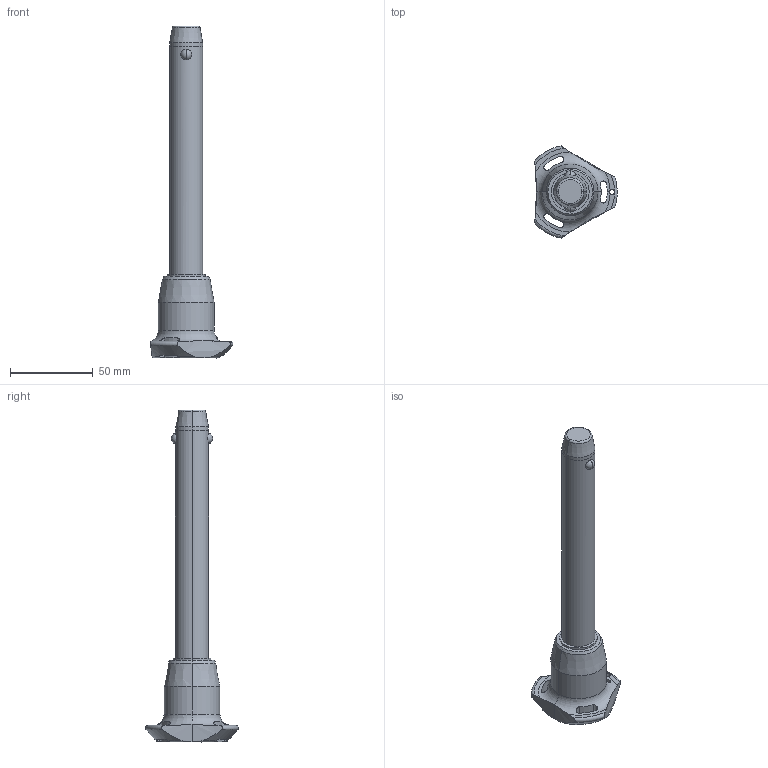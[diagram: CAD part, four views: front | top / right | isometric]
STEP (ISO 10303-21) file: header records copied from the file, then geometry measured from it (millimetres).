
FILE_DESCRIPTION (( 'STEP AP203' ), '1' );
FILE_NAME ('QR1726.M20-130-T.step', '2025-11-13T11:26:28', ( '' ), ( '' ), 'SwSTEP 2.0', 'SolidWorks 2019', '' );
FILE_SCHEMA (( 'CONFIG_CONTROL_DESIGN' ));
Length unit declared in the file: millimetre
Products named in the file (1): QR1726.M20-130-T
Bounding box: 50.05 x 56.02 x 201.2 mm (x, y, z)
Volume: 94616.4 mm3; surface area: 19135.8 mm2
Topology: 1 solids, 1 shells, 68 faces, 182 edges, 115 vertices
Faces by surface type: cylinder 32, cone 14, torus 11, sphere 6, plane 5
Entity records: 2938 total; most frequent: CARTESIAN_POINT 1192, ORIENTED_EDGE 364, DIRECTION 345, EDGE_CURVE 182, AXIS2_PLACEMENT_3D 154, VERTEX_POINT 115, CIRCLE 85, EDGE_LOOP 75
